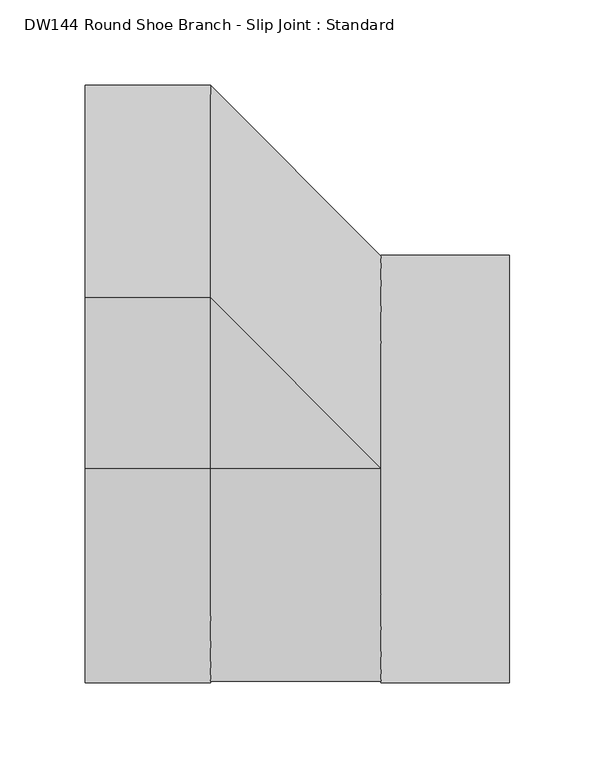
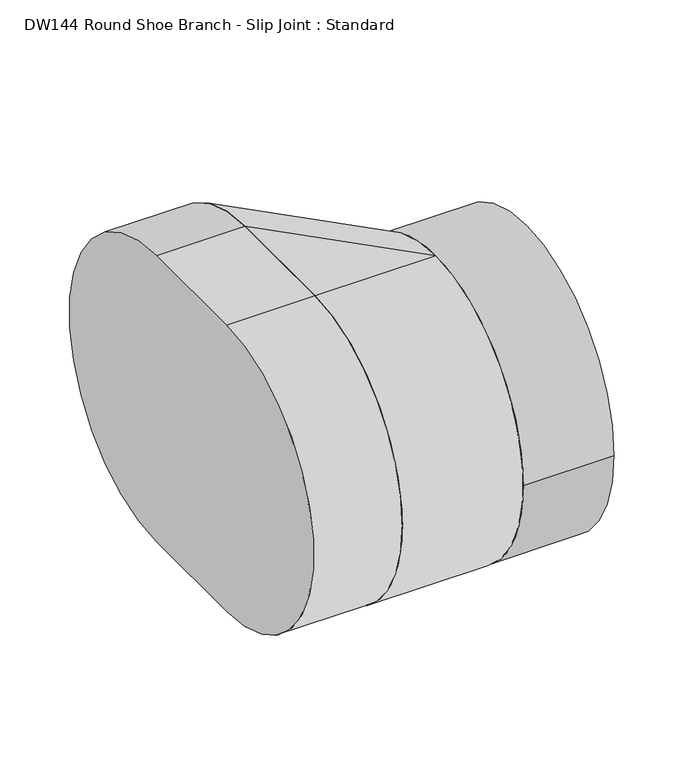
"""IFC4 building model written with IfcOpenShell, lengths in millimetres: duct fitting geometry, DW144 Round Shoe Branch - Slip Joint : Standard."""

from ifc_helpers import new_model, si_unit, point, frame, frame_2d, origin, origin_2d, place, context, project, spatial, polyline, circle_curve, trimmed, segment, composite_curve, outline, extrude, source, transform, mapped, element, save
from ifc_brep_helpers import plane_surface, cylinder_surface, extruded_surface, advanced_brep


def dw144_round_shoe_branch_slip_joint_standard_0dbb398a(model_context):
    return source(origin(), model_context, "Body", "SolidModel", [
        extrude(outline(composite_curve([segment(trimmed(circle_curve(origin_2d(), 125.0), [point((125.0, 0.0))], [point((-125.0, 0.0))], False, "CARTESIAN"), True, "CONTINUOUS"), segment(trimmed(circle_curve(origin_2d(), 125.0), [point((-125.0, 0.0))], [point((125.0, 0.0))], False, "CARTESIAN"), True, "CONTINUOUS")], self_intersect=False)), frame((100.0, 0.0, 0.0), z_axis=(1.0, 0.0, 0.0), x_axis=(0.0, 1.0, 0.0)), (0.0, 0.0, 1.0), 75.0),
        advanced_brep(
        [(100.0, 0.0, -125.0), (100.0, 0.0, 125.0), (0.0, 0.0, -125.0), (0.0, 0.0, 125.0), (0.0, 100.0, 125.0), (0.0, 100.0, -125.0)],
        [
            (0, 1, circle_curve(frame((100.0, 0.0, 0.0), z_axis=(1.0, 0.0, 0.0), x_axis=(0.0, -1.0, 0.0)), 125.0)),
            (1, 0, circle_curve(frame((100.0, 0.0, 0.0), z_axis=(1.0, 0.0, 0.0), x_axis=(0.0, -1.0, 0.0)), 125.0)),
            (2, 3, circle_curve(frame((0.0, 0.0, 0.0), z_axis=(-1.0, 0.0, 0.0), x_axis=(0.0, -1.0, 0.0)), 125.0)),
            (3, 4),
            (4, 5, circle_curve(frame((0.0, 100.0, 0.0), z_axis=(-1.0, 0.0, 0.0), x_axis=(0.0, -1.0, 0.0)), 125.0)),
            (5, 2),
            (2, 0),
            (1, 3),
            (1, 4),
            (0, 5),
        ],
        [
            plane_surface(frame((100.0, 0.0, 0.0), z_axis=(1.0, 0.0, 0.0), x_axis=(0.0, -1.0, 0.0))),
            plane_surface(frame((0.0, 50.0, 0.0), z_axis=(-1.0, 0.0, 0.0), x_axis=(0.0, -1.0, 0.0))),
            cylinder_surface(frame((0.0, 0.0, 0.0), z_axis=(1.0, 0.0, 0.0), x_axis=(0.0, -1.0, 0.0)), 125.0),
            plane_surface(frame((0.0, 50.0, 125.0), z_axis=(0.0, 0.0, 1.0), x_axis=(0.0, 1.0, 0.0))),
            extruded_surface(trimmed(circle_curve(frame((100.0, 0.0, 0.0), z_axis=(-1.0, 0.0, 0.0), x_axis=(0.0, -1.0, 0.0)), 125.0), [point((100.0, 0.0, 125.0))], [point((100.0, 0.0, -125.0))], True, "CARTESIAN"), (-100.0, 100.0, 0.0), 141.4213562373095),
            plane_surface(frame((0.0, 50.0, -125.0), z_axis=(0.0, 0.0, -1.0), x_axis=(0.0, -1.0, 0.0))),
        ],
        [
            (0, [[1, 2]]),
            (1, [[3, 4, 5, 6]]),
            (2, [[7, -2, 8, -3]]),
            (3, [[-8, 9, -4]]),
            (4, [[-9, -1, 10, -5]]),
            (5, [[-10, -7, -6]]),
        ],
    ),
        extrude(outline(composite_curve([segment(trimmed(circle_curve(origin_2d(), 125.0), [point((0.0, -125.0))], [point((0.0, 125.0))], False, "CARTESIAN"), True, "CONTINUOUS"), segment(polyline([(0.0, 125.0), (100.0, 125.0)]), True, "CONTINUOUS"), segment(trimmed(circle_curve(frame_2d((100.0, 0.0)), 125.0), [point((100.0, 125.0))], [point((100.0, -125.0))], False, "CARTESIAN"), True, "CONTINUOUS"), segment(polyline([(100.0, -125.0), (0.0, -125.0)]), True, "CONTINUOUS")], self_intersect=False)), frame((-73.1803802, 0.0, 0.0), z_axis=(1.0, 0.0, 0.0), x_axis=(0.0, 1.0, 0.0)), (0.0, 0.0, 1.0), 73.1803802),
    ])


if __name__ == "__main__":
    model = new_model("IFC4")
    model_context = context("Model", 3, world=origin())
    ifc_project = project(units=[si_unit("LENGTHUNIT", "METRE", prefix="MILLI")], contexts=[model_context])
    site = spatial("IfcSite", under=ifc_project)
    building = spatial("IfcBuilding", under=site)
    placement = place(None, origin())
    dw144_round_shoe_branch_slip_joint_standard_shape = dw144_round_shoe_branch_slip_joint_standard_0dbb398a(model_context)
    element("IfcDuctFitting", 1, ObjectType="DW144 Round Shoe Branch - Slip Joint : Standard", at=placement, inside=building, context=model_context, shape_type="MappedRepresentation", body=[
        mapped(dw144_round_shoe_branch_slip_joint_standard_shape, transform((0.0, 0.0, 0.0), x_axis=(1.0, 0.0, 0.0), y_axis=(0.0, 1.0, 0.0), z_axis=(0.0, 0.0, 1.0))),
    ])
    save(model, "model.ifc")
